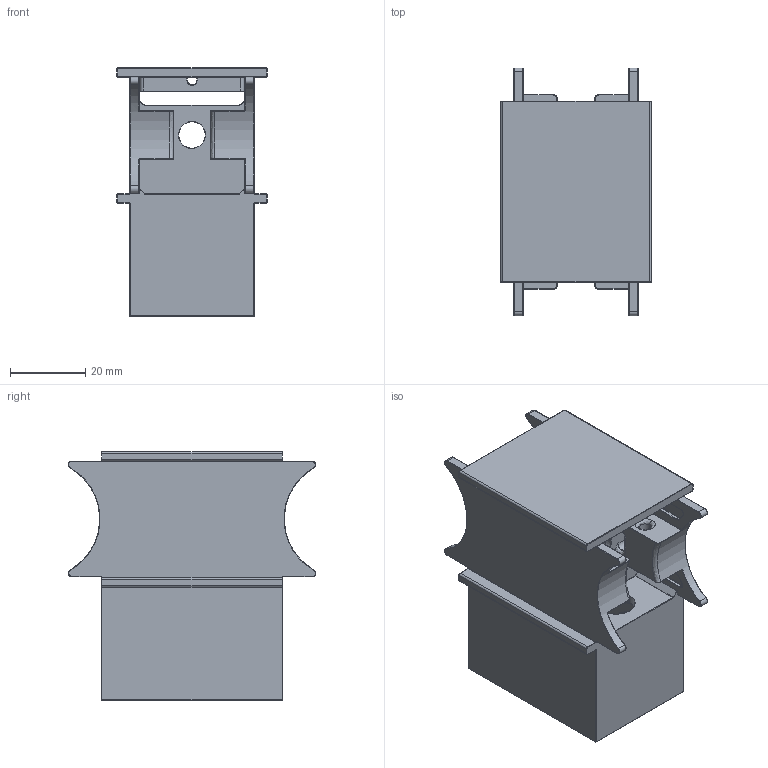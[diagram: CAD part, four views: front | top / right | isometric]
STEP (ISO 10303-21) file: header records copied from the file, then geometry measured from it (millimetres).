
FILE_DESCRIPTION (( 'STEP AP214' ), '1' );
FILE_NAME ('ACDISTMIXAPXXXX.STEP', '2023-08-28T15:06:16', ( '' ), ( '' ), 'SwSTEP 2.0', 'SolidWorks 2023', '' );
FILE_SCHEMA (( 'AUTOMOTIVE_DESIGN' ));
Length unit declared in the file: millimetre
Products named in the file (3): WSCP2E0042-1400-01; ACDISTMIXAPXXXX; WSCP2E0043-1400-00
Assembly tree (2 placements, depth 2):
  ACDISTMIXAPXXXX
    WSCP2E0042-1400-01
    WSCP2E0043-1400-00
Bounding box: 40 x 65.71 x 65.95 mm (x, y, z)
Volume: 41032.6 mm3; surface area: 32771.4 mm2
Topology: 2 solids, 2 shells, 1869 faces, 4301 edges, 2418 vertices
Faces by surface type: cylinder 825, bspline 760, plane 284
Entity records: 68709 total; most frequent: CARTESIAN_POINT 30377, ORIENTED_EDGE 8474, DIRECTION 7635, EDGE_CURVE 4237, AXIS2_PLACEMENT_3D 3052, VERTEX_POINT 2418, EDGE_LOOP 1945, CIRCLE 1938
